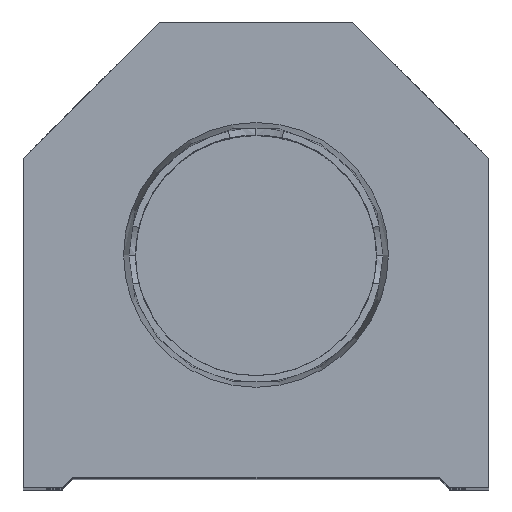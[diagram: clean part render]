
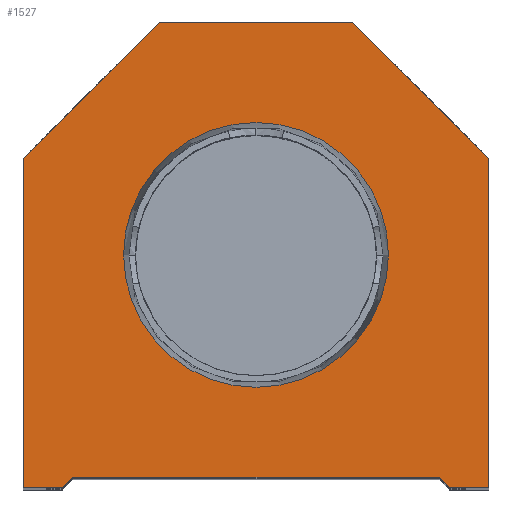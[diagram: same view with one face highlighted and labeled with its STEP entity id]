
A CAD part, top view. The second image highlights one B-rep face of the part: STEP entity #1527.
In plain terms, the highlighted planar face has unit normal (0, 0, 1).
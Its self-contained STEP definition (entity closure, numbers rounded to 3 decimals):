
#307 = EDGE_CURVE ( 'NONE', #15854, #6045, #8160, .T. ) ;
#700 = DIRECTION ( 'NONE',  ( -0.707, -0.707, 0. ) ) ;
#752 = VERTEX_POINT ( 'NONE', #17531 ) ;
#978 = EDGE_CURVE ( 'NONE', #8558, #7118, #20058, .T. ) ;
#1110 = LINE ( 'NONE', #14235, #14570 ) ;
#1259 = DIRECTION ( 'NONE',  ( 0., 1., 0. ) ) ;
#1463 = ORIENTED_EDGE ( 'NONE', *, *, #978, .F. ) ;
#1527 = ADVANCED_FACE ( 'NONE', ( #14125, #18783 ), #2964, .T. ) ;
#1569 = ORIENTED_EDGE ( 'NONE', *, *, #13340, .T. ) ;
#1918 = ORIENTED_EDGE ( 'NONE', *, *, #19788, .T. ) ;
#2289 = VECTOR ( 'NONE', #15232, 1000. ) ;
#2473 = VERTEX_POINT ( 'NONE', #15709 ) ;
#2820 = EDGE_CURVE ( 'NONE', #7118, #8558, #12478, .T. ) ;
#2964 = PLANE ( 'NONE',  #3795 ) ;
#3524 = VERTEX_POINT ( 'NONE', #20383 ) ;
#3612 = CARTESIAN_POINT ( 'NONE',  ( -12.647, 22.25, 0. ) ) ;
#3740 = LINE ( 'NONE', #8669, #20618 ) ;
#3795 = AXIS2_PLACEMENT_3D ( 'NONE', #20245, #4534, #7672 ) ;
#4534 = DIRECTION ( 'NONE',  ( 0., 0., 1. ) ) ;
#4673 = AXIS2_PLACEMENT_3D ( 'NONE', #19078, #11118, #12558 ) ;
#5505 = CARTESIAN_POINT ( 'NONE',  ( -17.5, 0., 0. ) ) ;
#5586 = DIRECTION ( 'NONE',  ( 1., 0., 0. ) ) ;
#5600 = CARTESIAN_POINT ( 'NONE',  ( -22.25, 31.5, 0. ) ) ;
#5646 = EDGE_CURVE ( 'NONE', #8969, #3524, #10849, .T. ) ;
#5685 = CARTESIAN_POINT ( 'NONE',  ( 0., 22.25, 0. ) ) ;
#6045 = VERTEX_POINT ( 'NONE', #9931 ) ;
#6159 = CARTESIAN_POINT ( 'NONE',  ( 22.25, 0., 0. ) ) ;
#6651 = CARTESIAN_POINT ( 'NONE',  ( -9.25, 9.25, 0. ) ) ;
#6973 = LINE ( 'NONE', #5505, #16537 ) ;
#7118 = VERTEX_POINT ( 'NONE', #3612 ) ;
#7195 = DIRECTION ( 'NONE',  ( 1., 0., 0. ) ) ;
#7239 = EDGE_CURVE ( 'NONE', #6045, #17863, #1110, .T. ) ;
#7370 = LINE ( 'NONE', #5600, #20012 ) ;
#7525 = DIRECTION ( 'NONE',  ( 0.707, -0.707, 0. ) ) ;
#7672 = DIRECTION ( 'NONE',  ( 1., 0., 0. ) ) ;
#7675 = CARTESIAN_POINT ( 'NONE',  ( 22.25, 0., 0. ) ) ;
#7845 = EDGE_CURVE ( 'NONE', #2473, #15854, #3740, .T. ) ;
#8160 = LINE ( 'NONE', #6159, #12427 ) ;
#8558 = VERTEX_POINT ( 'NONE', #10467 ) ;
#8669 = CARTESIAN_POINT ( 'NONE',  ( 17.5, 0., 0. ) ) ;
#8764 = ORIENTED_EDGE ( 'NONE', *, *, #17165, .T. ) ;
#8835 = ORIENTED_EDGE ( 'NONE', *, *, #17772, .T. ) ;
#8969 = VERTEX_POINT ( 'NONE', #16891 ) ;
#9028 = VECTOR ( 'NONE', #7525, 1000. ) ;
#9409 = EDGE_CURVE ( 'NONE', #752, #14061, #16841, .T. ) ;
#9931 = CARTESIAN_POINT ( 'NONE',  ( 22.25, 31.5, 0. ) ) ;
#10201 = CARTESIAN_POINT ( 'NONE',  ( 9.25, 44.5, 0. ) ) ;
#10264 = CARTESIAN_POINT ( 'NONE',  ( -9.25, 44.5, 0. ) ) ;
#10400 = DIRECTION ( 'NONE',  ( 0., 0., 1. ) ) ;
#10467 = CARTESIAN_POINT ( 'NONE',  ( 12.647, 22.25, 0. ) ) ;
#10849 = LINE ( 'NONE', #12592, #19900 ) ;
#10949 = EDGE_CURVE ( 'NONE', #14061, #19276, #6973, .T. ) ;
#11118 = DIRECTION ( 'NONE',  ( 0., 0., 1. ) ) ;
#12427 = VECTOR ( 'NONE', #1259, 1000. ) ;
#12478 = CIRCLE ( 'NONE', #19869, 12.647 ) ;
#12558 = DIRECTION ( 'NONE',  ( 1., 0., 0. ) ) ;
#12592 = CARTESIAN_POINT ( 'NONE',  ( -17.5, 1., 0. ) ) ;
#13111 = DIRECTION ( 'NONE',  ( 1., 0., 0. ) ) ;
#13234 = EDGE_LOOP ( 'NONE', ( #1463, #15153 ) ) ;
#13340 = EDGE_CURVE ( 'NONE', #3524, #2473, #16958, .T. ) ;
#13461 = EDGE_LOOP ( 'NONE', ( #17327, #1918, #13731, #1569, #16969, #19281, #17061, #8835, #8764, #16529 ) ) ;
#13678 = CARTESIAN_POINT ( 'NONE',  ( 9.25, 9.25, 0. ) ) ;
#13731 = ORIENTED_EDGE ( 'NONE', *, *, #5646, .T. ) ;
#14061 = VERTEX_POINT ( 'NONE', #20127 ) ;
#14125 = FACE_BOUND ( 'NONE', #13234, .T. ) ;
#14235 = CARTESIAN_POINT ( 'NONE',  ( 22.25, 31.5, 0. ) ) ;
#14570 = VECTOR ( 'NONE', #18890, 1000. ) ;
#14692 = VECTOR ( 'NONE', #18523, 1000. ) ;
#15153 = ORIENTED_EDGE ( 'NONE', *, *, #2820, .F. ) ;
#15232 = DIRECTION ( 'NONE',  ( -1., 0., 0. ) ) ;
#15383 = CARTESIAN_POINT ( 'NONE',  ( -18.5, 0., 0. ) ) ;
#15709 = CARTESIAN_POINT ( 'NONE',  ( 18.5, 0., 0. ) ) ;
#15854 = VERTEX_POINT ( 'NONE', #7675 ) ;
#16064 = LINE ( 'NONE', #6651, #17688 ) ;
#16529 = ORIENTED_EDGE ( 'NONE', *, *, #9409, .T. ) ;
#16537 = VECTOR ( 'NONE', #13111, 1000. ) ;
#16721 = CARTESIAN_POINT ( 'NONE',  ( 9.25, 44.5, 0. ) ) ;
#16841 = LINE ( 'NONE', #20092, #14692 ) ;
#16891 = CARTESIAN_POINT ( 'NONE',  ( -17.5, 1., 0. ) ) ;
#16958 = LINE ( 'NONE', #13678, #9028 ) ;
#16969 = ORIENTED_EDGE ( 'NONE', *, *, #7845, .T. ) ;
#17061 = ORIENTED_EDGE ( 'NONE', *, *, #7239, .T. ) ;
#17165 = EDGE_CURVE ( 'NONE', #20072, #752, #7370, .T. ) ;
#17327 = ORIENTED_EDGE ( 'NONE', *, *, #10949, .T. ) ;
#17531 = CARTESIAN_POINT ( 'NONE',  ( -22.25, 31.5, 0. ) ) ;
#17688 = VECTOR ( 'NONE', #19747, 1000. ) ;
#17772 = EDGE_CURVE ( 'NONE', #17863, #20072, #20393, .T. ) ;
#17863 = VERTEX_POINT ( 'NONE', #10201 ) ;
#18523 = DIRECTION ( 'NONE',  ( 0., -1., 0. ) ) ;
#18783 = FACE_OUTER_BOUND ( 'NONE', #13461, .T. ) ;
#18808 = DIRECTION ( 'NONE',  ( 1., 0., 0. ) ) ;
#18890 = DIRECTION ( 'NONE',  ( -0.707, 0.707, 0. ) ) ;
#19078 = CARTESIAN_POINT ( 'NONE',  ( 0., 22.25, 0. ) ) ;
#19276 = VERTEX_POINT ( 'NONE', #15383 ) ;
#19281 = ORIENTED_EDGE ( 'NONE', *, *, #307, .T. ) ;
#19747 = DIRECTION ( 'NONE',  ( 0.707, 0.707, 0. ) ) ;
#19788 = EDGE_CURVE ( 'NONE', #19276, #8969, #16064, .T. ) ;
#19869 = AXIS2_PLACEMENT_3D ( 'NONE', #5685, #10400, #5586 ) ;
#19900 = VECTOR ( 'NONE', #18808, 1000. ) ;
#20012 = VECTOR ( 'NONE', #700, 1000. ) ;
#20058 = CIRCLE ( 'NONE', #4673, 12.647 ) ;
#20072 = VERTEX_POINT ( 'NONE', #10264 ) ;
#20092 = CARTESIAN_POINT ( 'NONE',  ( -22.25, 0., 0. ) ) ;
#20127 = CARTESIAN_POINT ( 'NONE',  ( -22.25, 0., 0. ) ) ;
#20245 = CARTESIAN_POINT ( 'NONE',  ( 0., 0., 0. ) ) ;
#20383 = CARTESIAN_POINT ( 'NONE',  ( 17.5, 1., 0. ) ) ;
#20393 = LINE ( 'NONE', #16721, #2289 ) ;
#20618 = VECTOR ( 'NONE', #7195, 1000. ) ;
